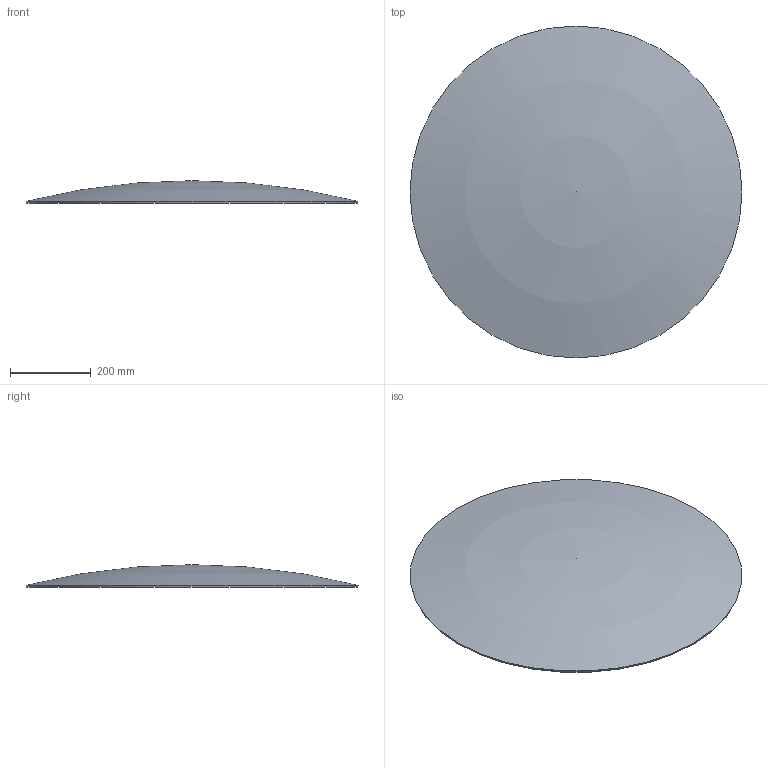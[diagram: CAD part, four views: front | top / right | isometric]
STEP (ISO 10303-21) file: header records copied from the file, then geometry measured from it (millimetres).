
FILE_DESCRIPTION( ( 'STEP AP214' ), '1' );
FILE_NAME( 'D:/Yug/2021/Delta/desk_and_office_organisation/QC/48532.stp', '2021-01-19T12:34:33', ( '' ), ( '' ), ' ', 'PARTsolutions', ' ' );
FILE_SCHEMA( ( 'AUTOMOTIVE_DESIGN { 1 0 10303 214 1 1 1 1 }' ) );
Length unit declared in the file: millimetre
Products named in the file (1): _48532
Bounding box: 820 x 820 x 55.71 mm (x, y, z)
Volume: 2673240.2 mm3; surface area: 1082159.2 mm2
Topology: 1 solids, 1 shells, 3 faces, 9 edges, 6 vertices
Faces by surface type: sphere 2, cone 1
Entity records: 102 total; most frequent: DIRECTION 12, CARTESIAN_POINT 10, AXIS2_PLACEMENT_3D 6, EDGE_LOOP 4, ORIENTED_EDGE 4, VERTEX_POINT 4, STYLED_ITEM 3, PRESENTATION_STYLE_ASSIGNMENT 3
